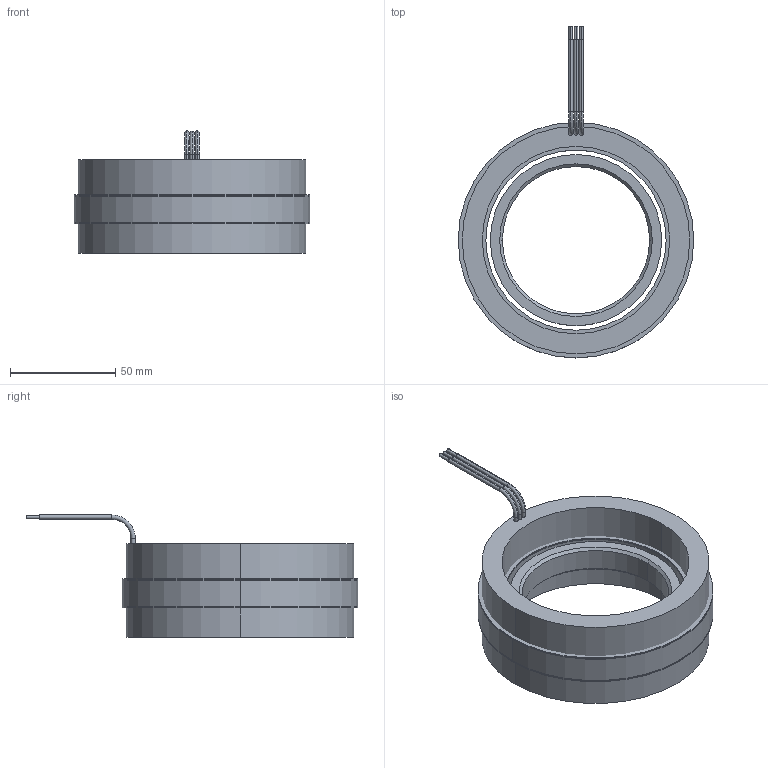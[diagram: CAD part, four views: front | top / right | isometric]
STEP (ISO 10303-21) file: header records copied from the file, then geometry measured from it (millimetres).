
FILE_DESCRIPTION (( 'STEP AP214' ), '1' );
FILE_NAME ('6100255-07.STEP', '2019-11-11T17:43:14', ( '' ), ( '' ), 'SwSTEP 2.0', 'SolidWorks 2016', '' );
FILE_SCHEMA (( 'AUTOMOTIVE_DESIGN' ));
Length unit declared in the file: millimetre
Products named in the file (11): 4450154-XX_4450154-04; 4400054-00; 4500516-XX_4500516-07; 4250340-XX_4250340-04; COMP4500516-XX(COIL)_COMP4500516-07(COIL); 4150144-XX_4150144-04; 4600515-00; 6100255-07
Assembly tree (10 placements, depth 4):
  6100255-07
    4500516-XX_4500516-07
      4450154-XX_4450154-04
        4450154-XX_4450154-04
        4400054-00
        4400054-00
        4600515-00
        4600515-00
      COMP4500516-XX(COIL)_COMP4500516-07(COIL)
    4250340-XX_4250340-04
      4150144-XX_4150144-04
Bounding box: 111.76 x 157.42 x 57.91 mm (x, y, z)
Volume: 203402.5 mm3; surface area: 91941 mm2
Topology: 7 solids, 7 shells, 76 faces, 152 edges, 96 vertices
Faces by surface type: cylinder 46, plane 20, torus 6, cone 4
Entity records: 2446 total; most frequent: DIRECTION 438, CARTESIAN_POINT 340, ORIENTED_EDGE 304, AXIS2_PLACEMENT_3D 194, EDGE_CURVE 152, CIRCLE 102, EDGE_LOOP 96, VERTEX_POINT 96
